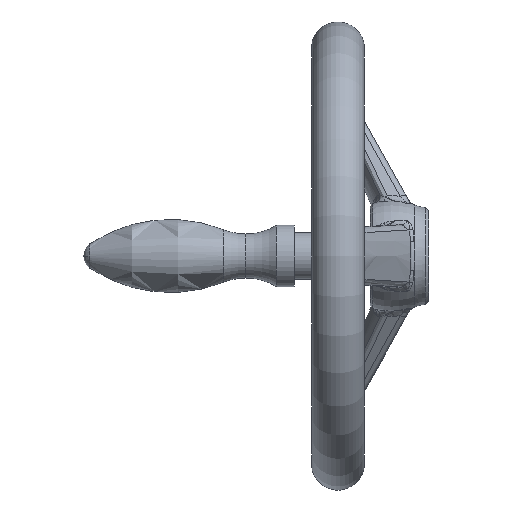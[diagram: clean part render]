
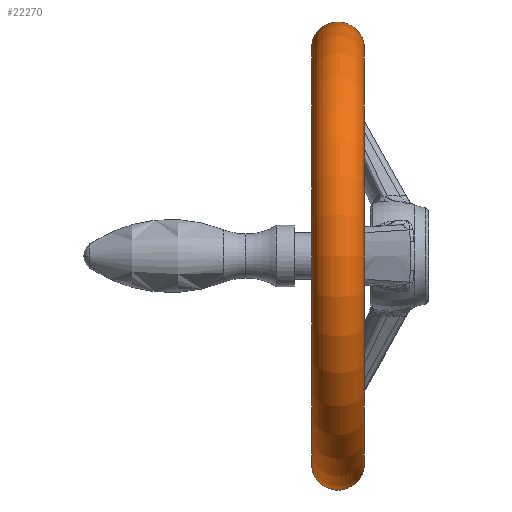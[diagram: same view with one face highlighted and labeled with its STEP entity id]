
A CAD part, left-side view. The second image highlights one B-rep face of the part: STEP entity #22270.
In plain terms, the highlighted toroidal (fillet/blend) face has major radius 70.938 mm and minor radius 9.062 mm.
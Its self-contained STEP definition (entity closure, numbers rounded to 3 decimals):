
#7127 = CIRCLE ( 'NONE', #7172, 72. ) ;
#7128 = CARTESIAN_POINT ( 'NONE',  ( 0., 40., 0. ) ) ;
#7129 = DIRECTION ( 'NONE',  ( 0., 0., -1. ) ) ;
#7130 = DIRECTION ( 'NONE',  ( 1., 0., 0. ) ) ;
#7131 = AXIS2_PLACEMENT_3D ( 'NONE', #7138, #7130, #7129 ) ;
#7132 = CIRCLE ( 'NONE', #7131, 9.063 ) ;
#7138 = CARTESIAN_POINT ( 'NONE',  ( 0., 31., 70.938 ) ) ;
#7163 = DIRECTION ( 'NONE',  ( 0., 0., -1. ) ) ;
#7164 = DIRECTION ( 'NONE',  ( 0., -1., 0. ) ) ;
#7172 = AXIS2_PLACEMENT_3D ( 'NONE', #7128, #7164, #7163 ) ;
#8406 = CARTESIAN_POINT ( 'NONE',  ( 0., 40., -72. ) ) ;
#8408 = CARTESIAN_POINT ( 'NONE',  ( 0., 40., 72. ) ) ;
#8572 = CARTESIAN_POINT ( 'NONE',  ( 0., 22., 72. ) ) ;
#8994 = CARTESIAN_POINT ( 'NONE',  ( 0., 22., -72. ) ) ;
#9597 = AXIS2_PLACEMENT_3D ( 'NONE', #9636, #9627, #9626 ) ;
#9626 = DIRECTION ( 'NONE',  ( 0., 0., 1. ) ) ;
#9627 = DIRECTION ( 'NONE',  ( -1., 0., 0. ) ) ;
#9636 = CARTESIAN_POINT ( 'NONE',  ( 0., 31., -70.938 ) ) ;
#9637 = CIRCLE ( 'NONE', #9597, 9.063 ) ;
#9923 = DIRECTION ( 'NONE',  ( 0., 0., -1. ) ) ;
#9924 = DIRECTION ( 'NONE',  ( 0., -1., 0. ) ) ;
#9925 = CARTESIAN_POINT ( 'NONE',  ( 0., 22., 0. ) ) ;
#9931 = AXIS2_PLACEMENT_3D ( 'NONE', #9925, #9924, #9923 ) ;
#9935 = CIRCLE ( 'NONE', #9931, 72. ) ;
#15629 = EDGE_CURVE ( 'NONE', #17788, #17859, #7132, .T. ) ;
#15650 = EDGE_CURVE ( 'NONE', #17788, #17789, #7127, .T. ) ;
#16348 = AXIS2_PLACEMENT_3D ( 'NONE', #16396, #16395, #16464 ) ;
#16385 = TOROIDAL_SURFACE ( 'NONE', #16348, 70.938, 9.063 ) ;
#16386 = FACE_OUTER_BOUND ( 'NONE', #22507, .T. ) ;
#16395 = DIRECTION ( 'NONE',  ( 0., -1., 0. ) ) ;
#16396 = CARTESIAN_POINT ( 'NONE',  ( 0., 31., 0. ) ) ;
#16464 = DIRECTION ( 'NONE',  ( 0., 0., -1. ) ) ;
#17788 = VERTEX_POINT ( 'NONE', #8408 ) ;
#17789 = VERTEX_POINT ( 'NONE', #8406 ) ;
#17859 = VERTEX_POINT ( 'NONE', #8572 ) ;
#18078 = VERTEX_POINT ( 'NONE', #8994 ) ;
#18349 = EDGE_CURVE ( 'NONE', #17789, #18078, #9637, .T. ) ;
#18960 = EDGE_CURVE ( 'NONE', #17859, #18078, #9935, .T. ) ;
#22241 = ORIENTED_EDGE ( 'NONE', *, *, #15629, .F. ) ;
#22270 = ADVANCED_FACE ( 'NONE', ( #16386 ), #16385, .T. ) ;
#22322 = ORIENTED_EDGE ( 'NONE', *, *, #18349, .T. ) ;
#22391 = ORIENTED_EDGE ( 'NONE', *, *, #15650, .T. ) ;
#22507 = EDGE_LOOP ( 'NONE', ( #22241, #22391, #22322, #23280 ) ) ;
#23280 = ORIENTED_EDGE ( 'NONE', *, *, #18960, .F. ) ;
